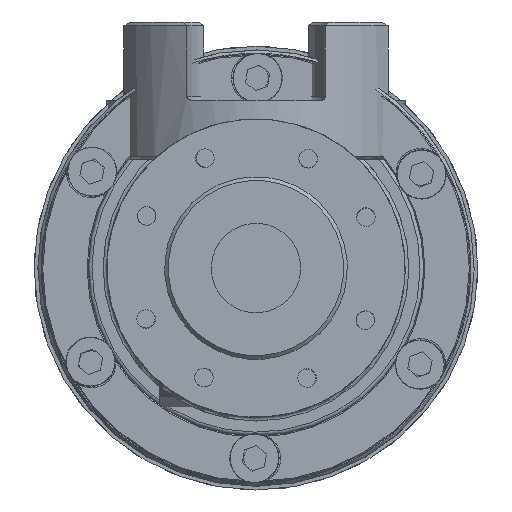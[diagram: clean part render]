
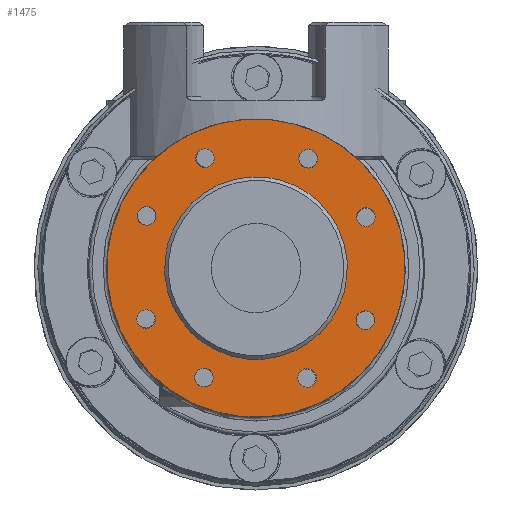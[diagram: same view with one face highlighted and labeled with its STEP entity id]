
A CAD part, left-side view. The second image highlights one B-rep face of the part: STEP entity #1475.
In plain terms, the highlighted planar face has unit normal (-1, 0, 0) as drawn and (0, -1, 0) by its records, which use the part's own axes.
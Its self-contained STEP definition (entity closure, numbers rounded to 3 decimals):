
#1475 = ADVANCED_FACE( '', ( #2941, #2942, #2943, #2944, #2945, #2946, #2947, #2948, #2949, #2950 ), #2951, .F. );
#2941 = FACE_OUTER_BOUND( '', #4195, .T. );
#2942 = FACE_BOUND( '', #4196, .T. );
#2943 = FACE_BOUND( '', #4197, .T. );
#2944 = FACE_BOUND( '', #4198, .T. );
#2945 = FACE_BOUND( '', #4199, .T. );
#2946 = FACE_BOUND( '', #4200, .T. );
#2947 = FACE_BOUND( '', #4201, .T. );
#2948 = FACE_BOUND( '', #4202, .T. );
#2949 = FACE_BOUND( '', #4203, .T. );
#2950 = FACE_BOUND( '', #4204, .T. );
#2951 = PLANE( '', #4205 );
#4195 = EDGE_LOOP( '', ( #7070 ) );
#4196 = EDGE_LOOP( '', ( #7071 ) );
#4197 = EDGE_LOOP( '', ( #7072 ) );
#4198 = EDGE_LOOP( '', ( #7073 ) );
#4199 = EDGE_LOOP( '', ( #7074 ) );
#4200 = EDGE_LOOP( '', ( #7075 ) );
#4201 = EDGE_LOOP( '', ( #7076 ) );
#4202 = EDGE_LOOP( '', ( #7077 ) );
#4203 = EDGE_LOOP( '', ( #7078 ) );
#4204 = EDGE_LOOP( '', ( #7079 ) );
#4205 = AXIS2_PLACEMENT_3D( '', #7080, #7081, #7082 );
#7070 = ORIENTED_EDGE( '', *, *, #8233, .T. );
#7071 = ORIENTED_EDGE( '', *, *, #8248, .F. );
#7072 = ORIENTED_EDGE( '', *, *, #8249, .F. );
#7073 = ORIENTED_EDGE( '', *, *, #8234, .F. );
#7074 = ORIENTED_EDGE( '', *, *, #8246, .F. );
#7075 = ORIENTED_EDGE( '', *, *, #8245, .F. );
#7076 = ORIENTED_EDGE( '', *, *, #8244, .F. );
#7077 = ORIENTED_EDGE( '', *, *, #8247, .F. );
#7078 = ORIENTED_EDGE( '', *, *, #8250, .F. );
#7079 = ORIENTED_EDGE( '', *, *, #8251, .F. );
#7080 = CARTESIAN_POINT( '', ( 0., 0., 40. ) );
#7081 = DIRECTION( '', ( 0., 1., 0. ) );
#7082 = DIRECTION( '', ( 1., 0., 0. ) );
#8233 = EDGE_CURVE( '', #9700, #9700, #9701, .T. );
#8234 = EDGE_CURVE( '', #9702, #9702, #9703, .T. );
#8244 = EDGE_CURVE( '', #9722, #9722, #9723, .T. );
#8245 = EDGE_CURVE( '', #9724, #9724, #9725, .T. );
#8246 = EDGE_CURVE( '', #9726, #9726, #9727, .T. );
#8247 = EDGE_CURVE( '', #9728, #9728, #9729, .T. );
#8248 = EDGE_CURVE( '', #9730, #9730, #9731, .T. );
#8249 = EDGE_CURVE( '', #9732, #9732, #9733, .T. );
#8250 = EDGE_CURVE( '', #9734, #9734, #9735, .T. );
#8251 = EDGE_CURVE( '', #9736, #9736, #9737, .T. );
#9700 = VERTEX_POINT( '', #11926 );
#9701 = CIRCLE( '', #11927, 40. );
#9702 = VERTEX_POINT( '', #11928 );
#9703 = CIRCLE( '', #11929, 2.5 );
#9722 = VERTEX_POINT( '', #11948 );
#9723 = CIRCLE( '', #11949, 2.5 );
#9724 = VERTEX_POINT( '', #11950 );
#9725 = CIRCLE( '', #11951, 2.5 );
#9726 = VERTEX_POINT( '', #11952 );
#9727 = CIRCLE( '', #11953, 2.5 );
#9728 = VERTEX_POINT( '', #11954 );
#9729 = CIRCLE( '', #11955, 2.5 );
#9730 = VERTEX_POINT( '', #11956 );
#9731 = CIRCLE( '', #11957, 2.5 );
#9732 = VERTEX_POINT( '', #11958 );
#9733 = CIRCLE( '', #11959, 2.5 );
#9734 = VERTEX_POINT( '', #11960 );
#9735 = CIRCLE( '', #11961, 2.5 );
#9736 = VERTEX_POINT( '', #11962 );
#9737 = CIRCLE( '', #11963, 24.5 );
#11926 = CARTESIAN_POINT( '', ( 0., 0., -40. ) );
#11927 = AXIS2_PLACEMENT_3D( '', #13554, #13555, #13556 );
#11928 = CARTESIAN_POINT( '', ( -23.202, 0., -25.054 ) );
#11929 = AXIS2_PLACEMENT_3D( '', #13557, #13558, #13559 );
#11948 = CARTESIAN_POINT( '', ( 32.5, 0., -2.5 ) );
#11949 = AXIS2_PLACEMENT_3D( '', #13587, #13588, #13589 );
#11950 = CARTESIAN_POINT( '', ( 25.054, 0., -23.202 ) );
#11951 = AXIS2_PLACEMENT_3D( '', #13590, #13591, #13592 );
#11952 = CARTESIAN_POINT( '', ( -2.5, 0., -32.5 ) );
#11953 = AXIS2_PLACEMENT_3D( '', #13593, #13594, #13595 );
#11954 = CARTESIAN_POINT( '', ( 23.202, 0., 25.054 ) );
#11955 = AXIS2_PLACEMENT_3D( '', #13596, #13597, #13598 );
#11956 = CARTESIAN_POINT( '', ( -25.054, 0., 23.202 ) );
#11957 = AXIS2_PLACEMENT_3D( '', #13599, #13600, #13601 );
#11958 = CARTESIAN_POINT( '', ( -32.5, 0., 2.5 ) );
#11959 = AXIS2_PLACEMENT_3D( '', #13602, #13603, #13604 );
#11960 = CARTESIAN_POINT( '', ( 2.5, 0., 32.5 ) );
#11961 = AXIS2_PLACEMENT_3D( '', #13605, #13606, #13607 );
#11962 = CARTESIAN_POINT( '', ( 0., 0., -24.5 ) );
#11963 = AXIS2_PLACEMENT_3D( '', #13608, #13609, #13610 );
#13554 = CARTESIAN_POINT( '', ( 0., 0., 0. ) );
#13555 = DIRECTION( '', ( 0., -1., 0. ) );
#13556 = DIRECTION( '', ( 0., 0., -1. ) );
#13557 = CARTESIAN_POINT( '', ( -20.702, 0., -25.054 ) );
#13558 = DIRECTION( '', ( 0., -1., 0. ) );
#13559 = DIRECTION( '', ( -1., 0., 0. ) );
#13587 = CARTESIAN_POINT( '', ( 32.5, 0., 0. ) );
#13588 = DIRECTION( '', ( 0., -1., 0. ) );
#13589 = DIRECTION( '', ( 0., 0., -1. ) );
#13590 = CARTESIAN_POINT( '', ( 25.054, 0., -20.702 ) );
#13591 = DIRECTION( '', ( 0., -1., 0. ) );
#13592 = DIRECTION( '', ( 0., 0., -1. ) );
#13593 = CARTESIAN_POINT( '', ( 0., 0., -32.5 ) );
#13594 = DIRECTION( '', ( 0., -1., 0. ) );
#13595 = DIRECTION( '', ( -1., 0., 0. ) );
#13596 = CARTESIAN_POINT( '', ( 20.702, 0., 25.054 ) );
#13597 = DIRECTION( '', ( 0., -1., 0. ) );
#13598 = DIRECTION( '', ( 1., 0., 0. ) );
#13599 = CARTESIAN_POINT( '', ( -25.054, 0., 20.702 ) );
#13600 = DIRECTION( '', ( 0., -1., 0. ) );
#13601 = DIRECTION( '', ( 0., 0., 1. ) );
#13602 = CARTESIAN_POINT( '', ( -32.5, 0., 0. ) );
#13603 = DIRECTION( '', ( 0., -1., 0. ) );
#13604 = DIRECTION( '', ( 0., 0., 1. ) );
#13605 = CARTESIAN_POINT( '', ( 0., 0., 32.5 ) );
#13606 = DIRECTION( '', ( 0., -1., 0. ) );
#13607 = DIRECTION( '', ( 1., 0., 0. ) );
#13608 = CARTESIAN_POINT( '', ( 0., 0., 0. ) );
#13609 = DIRECTION( '', ( 0., -1., 0. ) );
#13610 = DIRECTION( '', ( 0., 0., -1. ) );
